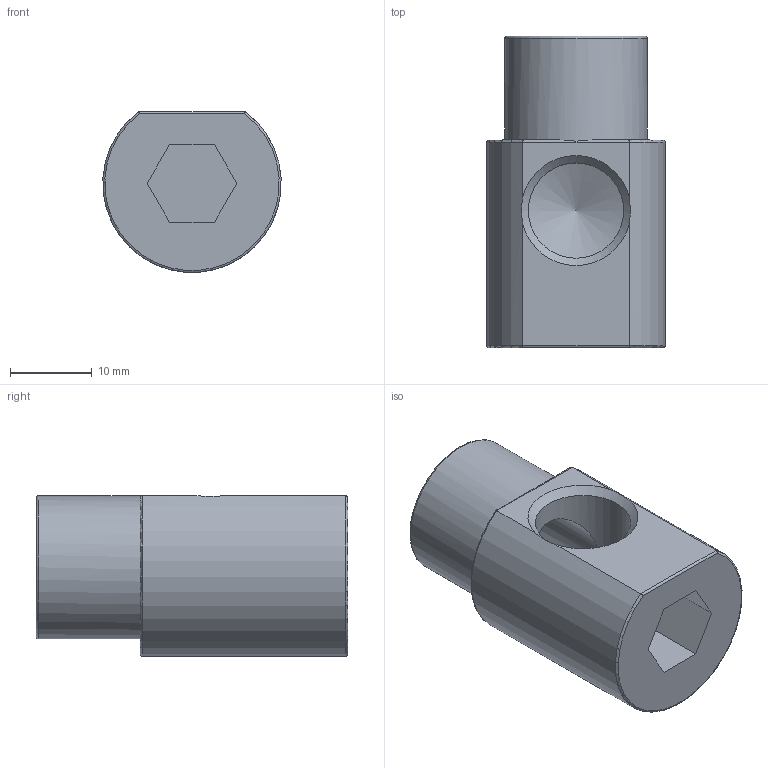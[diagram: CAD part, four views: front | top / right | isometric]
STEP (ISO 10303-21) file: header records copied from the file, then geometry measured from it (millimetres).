
FILE_DESCRIPTION(/* description */ (''),/* implementation_level */ '2;1');
FILE_NAME(/* name */ 'C:/Users/drich/Desktop/HKL14 v1.step',/* time_stamp */ '2019-12-27T17:57:49-06:00',/* author */ (''),/* organization */ (''),/* preprocessor_version */ 'ST-DEVELOPER v18',/* originating_system */ 'Autodesk Translation Framework v8.12.0.6',/* authorisation */ '');
FILE_SCHEMA (('AUTOMOTIVE_DESIGN { 1 0 10303 214 3 1 1 }'));
Length unit declared in the file: inch
Products named in the file (1): HKL14
Bounding box: 21.79 x 38.1 x 19.64 mm (x, y, z)
Volume: 8149.5 mm3; surface area: 4297.6 mm2
Topology: 1 solids, 1 shells, 26 faces, 66 edges, 42 vertices
Faces by surface type: plane 12, cylinder 7, cone 4, torus 3
Full cylindrical faces by diameter (mm): 10.312 x1, 11.668 x2, 17.475 x1
Entity records: 915 total; most frequent: CARTESIAN_POINT 249, ORIENTED_EDGE 130, DIRECTION 127, EDGE_CURVE 65, AXIS2_PLACEMENT_3D 46, VERTEX_POINT 42, LINE 35, VECTOR 35
